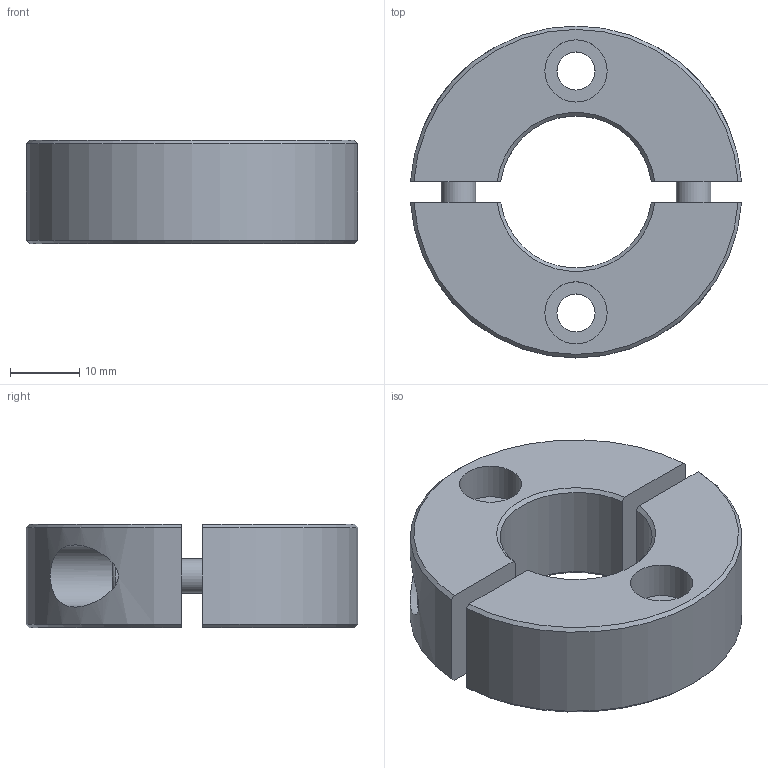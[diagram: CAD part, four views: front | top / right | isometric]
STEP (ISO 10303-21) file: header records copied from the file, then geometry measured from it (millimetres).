
FILE_DESCRIPTION( ( 'STEP AP203' ), '1' );
FILE_NAME( 'C:/Temp/Ganter_Step_05_03_2020/data/3_2/gn7072_2/Split Stainless Steel-Set collar GN 7072.2-48-B22-NI-B.stp', '2020-03-13T05:40:59', ( 'License CC BY-ND 4.0' ), ( 'CADENAS' ), ' ', 'PARTsolutions', ' ' );
FILE_SCHEMA( ( 'CONFIG_CONTROL_DESIGN' ) );
Length unit declared in the file: millimetre
Products named in the file (1): _Split Stainless Steel-Set collar GN 7072.2-48-B22-NI-B
Bounding box: 47.91 x 48 x 15 mm (x, y, z)
Volume: 18355.5 mm3; surface area: 8196.4 mm2
Topology: 1 solids, 1 shells, 56 faces, 131 edges, 89 vertices
Faces by surface type: plane 30, cylinder 16, cone 8, torus 2
Full cylindrical faces by diameter (mm): 5 x2, 5.4 x2, 5.5 x2, 8.5 x2, 9 x4
Entity records: 1696 total; most frequent: CARTESIAN_POINT 443, DIRECTION 246, ORIENTED_EDGE 220, EDGE_CURVE 110, AXIS2_PLACEMENT_3D 97, EDGE_LOOP 88, VERTEX_POINT 82, FACE_OUTER_BOUND 70
